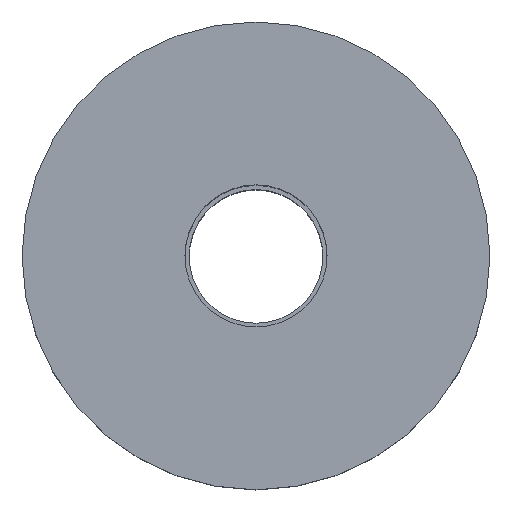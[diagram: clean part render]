
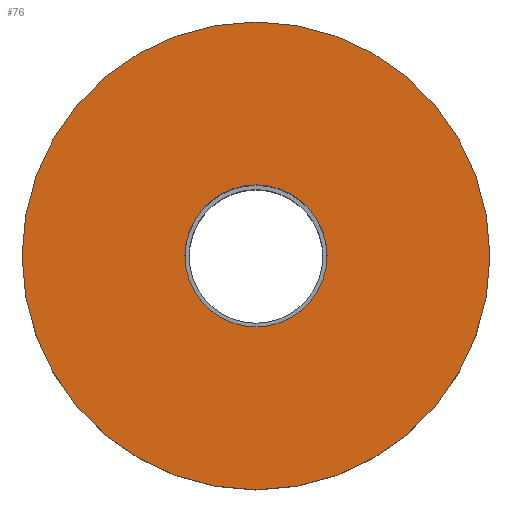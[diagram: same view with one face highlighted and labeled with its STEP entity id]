
A CAD part, top view. The second image highlights one B-rep face of the part: STEP entity #76.
In plain terms, the highlighted planar face has unit normal (0, 0, 1).
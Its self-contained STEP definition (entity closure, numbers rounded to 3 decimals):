
#3 = ORIENTED_EDGE ( 'NONE', *, *, #314, .T. ) ;
#18 = EDGE_LOOP ( 'NONE', ( #294, #42 ) ) ;
#32 = AXIS2_PLACEMENT_3D ( 'NONE', #186, #436, #288 ) ;
#42 = ORIENTED_EDGE ( 'NONE', *, *, #503, .F. ) ;
#60 = CARTESIAN_POINT ( 'NONE',  ( -4.25, 0., 0. ) ) ;
#76 = ADVANCED_FACE ( 'NONE', ( #123, #78 ), #251, .F. ) ;
#78 = FACE_OUTER_BOUND ( 'NONE', #347, .T. ) ;
#96 = CARTESIAN_POINT ( 'NONE',  ( 0., 0., 0. ) ) ;
#100 = DIRECTION ( 'NONE',  ( 0., 0., 1. ) ) ;
#117 = VERTEX_POINT ( 'NONE', #203 ) ;
#123 = FACE_BOUND ( 'NONE', #18, .T. ) ;
#143 = CIRCLE ( 'NONE', #264, 14. ) ;
#150 = ORIENTED_EDGE ( 'NONE', *, *, #173, .T. ) ;
#163 = CIRCLE ( 'NONE', #32, 4.25 ) ;
#173 = EDGE_CURVE ( 'NONE', #295, #480, #214, .T. ) ;
#186 = CARTESIAN_POINT ( 'NONE',  ( 0., 0., 0. ) ) ;
#190 = DIRECTION ( 'NONE',  ( 1., 0., 0. ) ) ;
#203 = CARTESIAN_POINT ( 'NONE',  ( 4.25, 0., 0. ) ) ;
#204 = EDGE_CURVE ( 'NONE', #117, #243, #239, .T. ) ;
#209 = AXIS2_PLACEMENT_3D ( 'NONE', #466, #217, #402 ) ;
#214 = CIRCLE ( 'NONE', #276, 14. ) ;
#217 = DIRECTION ( 'NONE',  ( 0., 0., 1. ) ) ;
#218 = CARTESIAN_POINT ( 'NONE',  ( -14., 0., 0. ) ) ;
#220 = CARTESIAN_POINT ( 'NONE',  ( 0., 0., 0. ) ) ;
#239 = CIRCLE ( 'NONE', #209, 4.25 ) ;
#243 = VERTEX_POINT ( 'NONE', #60 ) ;
#251 = PLANE ( 'NONE',  #307 ) ;
#264 = AXIS2_PLACEMENT_3D ( 'NONE', #220, #432, #299 ) ;
#276 = AXIS2_PLACEMENT_3D ( 'NONE', #96, #100, #190 ) ;
#287 = DIRECTION ( 'NONE',  ( -1., 0., 0. ) ) ;
#288 = DIRECTION ( 'NONE',  ( 1., 0., 0. ) ) ;
#294 = ORIENTED_EDGE ( 'NONE', *, *, #204, .F. ) ;
#295 = VERTEX_POINT ( 'NONE', #218 ) ;
#299 = DIRECTION ( 'NONE',  ( 1., 0., 0. ) ) ;
#307 = AXIS2_PLACEMENT_3D ( 'NONE', #322, #315, #287 ) ;
#314 = EDGE_CURVE ( 'NONE', #480, #295, #143, .T. ) ;
#315 = DIRECTION ( 'NONE',  ( 0., 0., -1. ) ) ;
#322 = CARTESIAN_POINT ( 'NONE',  ( 0., 4.25, 0. ) ) ;
#347 = EDGE_LOOP ( 'NONE', ( #3, #150 ) ) ;
#402 = DIRECTION ( 'NONE',  ( 1., 0., 0. ) ) ;
#418 = CARTESIAN_POINT ( 'NONE',  ( 14., 0., 0. ) ) ;
#432 = DIRECTION ( 'NONE',  ( 0., 0., 1. ) ) ;
#436 = DIRECTION ( 'NONE',  ( 0., 0., 1. ) ) ;
#466 = CARTESIAN_POINT ( 'NONE',  ( 0., 0., 0. ) ) ;
#480 = VERTEX_POINT ( 'NONE', #418 ) ;
#503 = EDGE_CURVE ( 'NONE', #243, #117, #163, .T. ) ;
